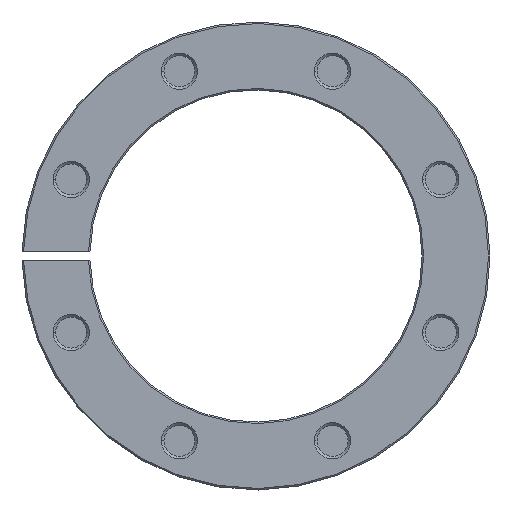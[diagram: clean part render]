
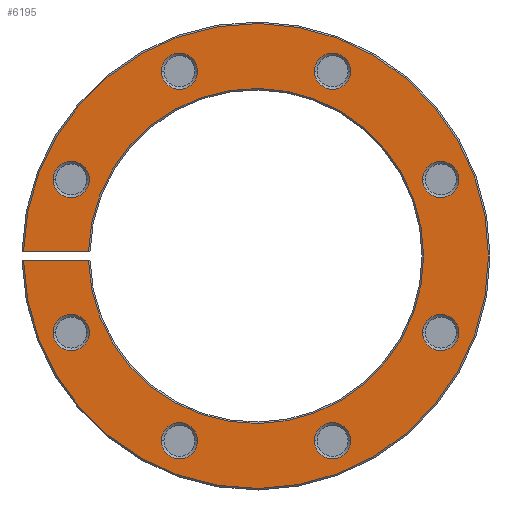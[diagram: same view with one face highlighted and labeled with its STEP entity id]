
A CAD part, left-side view. The second image highlights one B-rep face of the part: STEP entity #6195.
In plain terms, the highlighted planar face has unit normal (-1, 0, 0).
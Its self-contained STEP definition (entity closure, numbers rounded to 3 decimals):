
#1844=CARTESIAN_POINT('',(-44.,0.,0.));
#1845=DIRECTION('',(-1.,0.,0.));
#1846=DIRECTION('',(0.,1.,-0.019));
#1847=AXIS2_PLACEMENT_3D('',#1844,#1845,#1846);
#1880=CARTESIAN_POINT('',(-44.,61.207,
-25.353));
#1881=DIRECTION('',(1.,0.,0.));
#1882=DIRECTION('',(0.,-1.,0.));
#1883=AXIS2_PLACEMENT_3D('',#1880,#1881,#1882);
#1888=CARTESIAN_POINT('',(-44.,61.207,
-25.353));
#1889=DIRECTION('',(1.,0.,0.));
#1890=DIRECTION('',(0.,1.,0.));
#1891=AXIS2_PLACEMENT_3D('',#1888,#1889,#1890);
#1896=CARTESIAN_POINT('',(-44.,25.353,
-61.207));
#1897=DIRECTION('',(1.,0.,0.));
#1898=DIRECTION('',(0.,-1.,0.));
#1899=AXIS2_PLACEMENT_3D('',#1896,#1897,#1898);
#1904=CARTESIAN_POINT('',(-44.,25.353,
-61.207));
#1905=DIRECTION('',(1.,0.,0.));
#1906=DIRECTION('',(0.,1.,0.));
#1907=AXIS2_PLACEMENT_3D('',#1904,#1905,#1906);
#1912=CARTESIAN_POINT('',(-44.,-25.353,
-61.207));
#1913=DIRECTION('',(1.,0.,0.));
#1914=DIRECTION('',(0.,-1.,0.));
#1915=AXIS2_PLACEMENT_3D('',#1912,#1913,#1914);
#1920=CARTESIAN_POINT('',(-44.,-25.353,
-61.207));
#1921=DIRECTION('',(1.,0.,0.));
#1922=DIRECTION('',(0.,1.,0.));
#1923=AXIS2_PLACEMENT_3D('',#1920,#1921,#1922);
#1928=CARTESIAN_POINT('',(-44.,-61.207,
-25.353));
#1929=DIRECTION('',(1.,0.,0.));
#1930=DIRECTION('',(0.,-1.,0.));
#1931=AXIS2_PLACEMENT_3D('',#1928,#1929,#1930);
#1936=CARTESIAN_POINT('',(-44.,-61.207,
-25.353));
#1937=DIRECTION('',(1.,0.,0.));
#1938=DIRECTION('',(0.,1.,0.));
#1939=AXIS2_PLACEMENT_3D('',#1936,#1937,#1938);
#1944=CARTESIAN_POINT('',(-44.,-61.207,
25.353));
#1945=DIRECTION('',(1.,0.,0.));
#1946=DIRECTION('',(0.,-1.,0.));
#1947=AXIS2_PLACEMENT_3D('',#1944,#1945,#1946);
#1952=CARTESIAN_POINT('',(-44.,-61.207,
25.353));
#1953=DIRECTION('',(1.,0.,0.));
#1954=DIRECTION('',(0.,1.,0.));
#1955=AXIS2_PLACEMENT_3D('',#1952,#1953,#1954);
#1960=CARTESIAN_POINT('',(-44.,-25.353,
61.207));
#1961=DIRECTION('',(1.,0.,0.));
#1962=DIRECTION('',(0.,-1.,0.));
#1963=AXIS2_PLACEMENT_3D('',#1960,#1961,#1962);
#1968=CARTESIAN_POINT('',(-44.,-25.353,
61.207));
#1969=DIRECTION('',(1.,0.,0.));
#1970=DIRECTION('',(0.,1.,0.));
#1971=AXIS2_PLACEMENT_3D('',#1968,#1969,#1970);
#1976=CARTESIAN_POINT('',(-44.,25.353,61.207));
#1977=DIRECTION('',(1.,0.,0.));
#1978=DIRECTION('',(0.,-1.,0.));
#1979=AXIS2_PLACEMENT_3D('',#1976,#1977,#1978);
#1984=CARTESIAN_POINT('',(-44.,25.353,61.207));
#1985=DIRECTION('',(1.,0.,0.));
#1986=DIRECTION('',(0.,1.,0.));
#1987=AXIS2_PLACEMENT_3D('',#1984,#1985,#1986);
#1992=CARTESIAN_POINT('',(-44.,61.207,25.353));
#1993=DIRECTION('',(1.,0.,0.));
#1994=DIRECTION('',(0.,-1.,0.));
#1995=AXIS2_PLACEMENT_3D('',#1992,#1993,#1994);
#2000=CARTESIAN_POINT('',(-44.,61.207,25.353));
#2001=DIRECTION('',(1.,0.,0.));
#2002=DIRECTION('',(0.,1.,0.));
#2003=AXIS2_PLACEMENT_3D('',#2000,#2001,#2002);
#2008=DIRECTION('',(0.,-1.,0.));
#2009=VECTOR('',#2008,21.506);
#2010=CARTESIAN_POINT('',(-44.,76.985,-1.5));
#2011=LINE('',#2010,#2009);
#2015=DIRECTION('',(0.,-1.,0.));
#2016=VECTOR('',#2015,21.506);
#2017=CARTESIAN_POINT('',(-44.,76.985,1.5));
#2018=LINE('',#2017,#2016);
#2520=CARTESIAN_POINT('',(-44.,0.,0.));
#2521=DIRECTION('',(1.,0.,0.));
#2522=DIRECTION('',(0.,1.,0.027));
#2523=AXIS2_PLACEMENT_3D('',#2520,#2521,#2522);
#3788=CARTESIAN_POINT('',(-44.,55.207,
-25.353));
#3789=CARTESIAN_POINT('',(-44.,67.207,
-25.353));
#3790=VERTEX_POINT('',#3788);
#3791=VERTEX_POINT('',#3789);
#3848=CARTESIAN_POINT('',(-44.,19.353,
-61.207));
#3849=CARTESIAN_POINT('',(-44.,31.353,
-61.207));
#3850=VERTEX_POINT('',#3848);
#3851=VERTEX_POINT('',#3849);
#3856=CARTESIAN_POINT('',(-44.,-31.353,
-61.207));
#3857=CARTESIAN_POINT('',(-44.,-19.353,
-61.207));
#3858=VERTEX_POINT('',#3856);
#3859=VERTEX_POINT('',#3857);
#3864=CARTESIAN_POINT('',(-44.,-67.207,
-25.353));
#3865=CARTESIAN_POINT('',(-44.,-55.207,
-25.353));
#3866=VERTEX_POINT('',#3864);
#3867=VERTEX_POINT('',#3865);
#3872=CARTESIAN_POINT('',(-44.,-67.207,
25.353));
#3873=CARTESIAN_POINT('',(-44.,-55.207,
25.353));
#3874=VERTEX_POINT('',#3872);
#3875=VERTEX_POINT('',#3873);
#3880=CARTESIAN_POINT('',(-44.,-31.353,
61.207));
#3881=CARTESIAN_POINT('',(-44.,-19.353,
61.207));
#3882=VERTEX_POINT('',#3880);
#3883=VERTEX_POINT('',#3881);
#3888=CARTESIAN_POINT('',(-44.,19.353,61.207));
#3889=CARTESIAN_POINT('',(-44.,31.353,61.207));
#3890=VERTEX_POINT('',#3888);
#3891=VERTEX_POINT('',#3889);
#4236=CARTESIAN_POINT('',(-44.,55.207,25.353));
#4237=CARTESIAN_POINT('',(-44.,67.207,25.353));
#4238=VERTEX_POINT('',#4236);
#4239=VERTEX_POINT('',#4237);
#4304=CARTESIAN_POINT('',(-44.,76.985,-1.5));
#4305=CARTESIAN_POINT('',(-44.,55.48,-1.5));
#4306=VERTEX_POINT('',#4304);
#4307=VERTEX_POINT('',#4305);
#4308=CARTESIAN_POINT('',(-44.,76.985,1.5));
#4309=CARTESIAN_POINT('',(-44.,55.48,1.5));
#4310=VERTEX_POINT('',#4308);
#4311=VERTEX_POINT('',#4309);
#6135=CARTESIAN_POINT('',(-44.,0.,0.));
#6136=DIRECTION('',(1.,0.,0.));
#6137=DIRECTION('',(0.,0.,-1.));
#6138=AXIS2_PLACEMENT_3D('',#6135,#6136,#6137);
#6139=PLANE('',#6138);
#6140=ORIENTED_EDGE('',*,*,#5950,.T.);
#6142=ORIENTED_EDGE('',*,*,#6141,.F.);
#6143=ORIENTED_EDGE('',*,*,#6023,.F.);
#6144=ORIENTED_EDGE('',*,*,#6115,.F.);
#6145=EDGE_LOOP('',(#6140,#6142,#6143,#6144));
#6146=FACE_OUTER_BOUND('',#6145,.F.);
#6148=ORIENTED_EDGE('',*,*,#6147,.F.);
#6150=ORIENTED_EDGE('',*,*,#6149,.F.);
#6151=EDGE_LOOP('',(#6148,#6150));
#6152=FACE_BOUND('',#6151,.F.);
#6154=ORIENTED_EDGE('',*,*,#6153,.F.);
#6156=ORIENTED_EDGE('',*,*,#6155,.F.);
#6157=EDGE_LOOP('',(#6154,#6156));
#6158=FACE_BOUND('',#6157,.F.);
#6160=ORIENTED_EDGE('',*,*,#6159,.F.);
#6162=ORIENTED_EDGE('',*,*,#6161,.F.);
#6163=EDGE_LOOP('',(#6160,#6162));
#6164=FACE_BOUND('',#6163,.F.);
#6166=ORIENTED_EDGE('',*,*,#6165,.F.);
#6168=ORIENTED_EDGE('',*,*,#6167,.F.);
#6169=EDGE_LOOP('',(#6166,#6168));
#6170=FACE_BOUND('',#6169,.F.);
#6172=ORIENTED_EDGE('',*,*,#6171,.F.);
#6174=ORIENTED_EDGE('',*,*,#6173,.F.);
#6175=EDGE_LOOP('',(#6172,#6174));
#6176=FACE_BOUND('',#6175,.F.);
#6178=ORIENTED_EDGE('',*,*,#6177,.F.);
#6180=ORIENTED_EDGE('',*,*,#6179,.F.);
#6181=EDGE_LOOP('',(#6178,#6180));
#6182=FACE_BOUND('',#6181,.F.);
#6184=ORIENTED_EDGE('',*,*,#6183,.F.);
#6186=ORIENTED_EDGE('',*,*,#6185,.F.);
#6187=EDGE_LOOP('',(#6184,#6186));
#6188=FACE_BOUND('',#6187,.F.);
#6190=ORIENTED_EDGE('',*,*,#6189,.F.);
#6192=ORIENTED_EDGE('',*,*,#6191,.F.);
#6193=EDGE_LOOP('',(#6190,#6192));
#6194=FACE_BOUND('',#6193,.F.);
#6195=ADVANCED_FACE('',(#6146,#6152,#6158,#6164,#6170,#6176,#6182,#6188,#6194),
#6139,.F.);
#1848=CIRCLE('',#1847,77.);
#1884=CIRCLE('',#1883,6.);
#1892=CIRCLE('',#1891,6.);
#1900=CIRCLE('',#1899,6.);
#1908=CIRCLE('',#1907,6.);
#1916=CIRCLE('',#1915,6.);
#1924=CIRCLE('',#1923,6.);
#1932=CIRCLE('',#1931,6.);
#1940=CIRCLE('',#1939,6.);
#1948=CIRCLE('',#1947,6.);
#1956=CIRCLE('',#1955,6.);
#1964=CIRCLE('',#1963,6.);
#1972=CIRCLE('',#1971,6.);
#1980=CIRCLE('',#1979,6.);
#1988=CIRCLE('',#1987,6.);
#1996=CIRCLE('',#1995,6.);
#2004=CIRCLE('',#2003,6.);
#2524=CIRCLE('',#2523,55.5);
#5950=EDGE_CURVE('',#4306,#4307,#2011,.T.);
#6023=EDGE_CURVE('',#4310,#4311,#2018,.T.);
#6115=EDGE_CURVE('',#4306,#4310,#1848,.T.);
#6141=EDGE_CURVE('',#4311,#4307,#2524,.T.);
#6147=EDGE_CURVE('',#3790,#3791,#1884,.T.);
#6149=EDGE_CURVE('',#3791,#3790,#1892,.T.);
#6153=EDGE_CURVE('',#3850,#3851,#1900,.T.);
#6155=EDGE_CURVE('',#3851,#3850,#1908,.T.);
#6159=EDGE_CURVE('',#3858,#3859,#1916,.T.);
#6161=EDGE_CURVE('',#3859,#3858,#1924,.T.);
#6165=EDGE_CURVE('',#3866,#3867,#1932,.T.);
#6167=EDGE_CURVE('',#3867,#3866,#1940,.T.);
#6171=EDGE_CURVE('',#3874,#3875,#1948,.T.);
#6173=EDGE_CURVE('',#3875,#3874,#1956,.T.);
#6177=EDGE_CURVE('',#3882,#3883,#1964,.T.);
#6179=EDGE_CURVE('',#3883,#3882,#1972,.T.);
#6183=EDGE_CURVE('',#3890,#3891,#1980,.T.);
#6185=EDGE_CURVE('',#3891,#3890,#1988,.T.);
#6189=EDGE_CURVE('',#4238,#4239,#1996,.T.);
#6191=EDGE_CURVE('',#4239,#4238,#2004,.T.);
